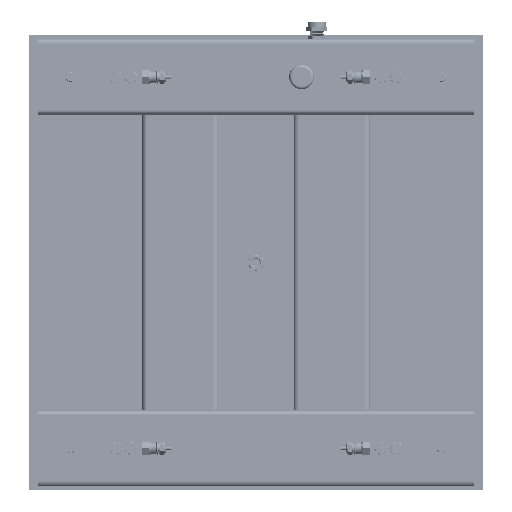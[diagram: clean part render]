
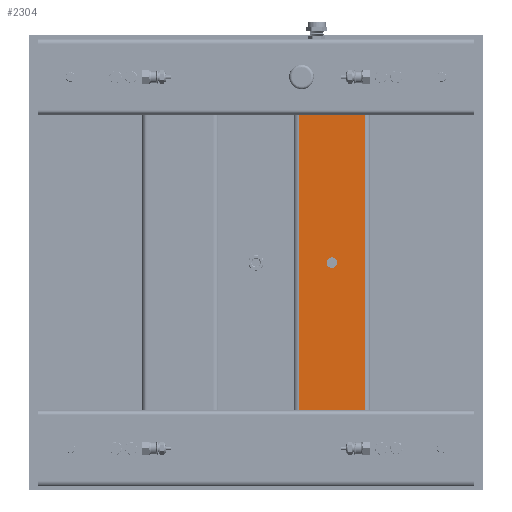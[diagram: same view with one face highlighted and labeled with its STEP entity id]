
A CAD part, front view. The second image highlights one B-rep face of the part: STEP entity #2304.
In plain terms, the highlighted planar face has unit normal (0, -1, 0).
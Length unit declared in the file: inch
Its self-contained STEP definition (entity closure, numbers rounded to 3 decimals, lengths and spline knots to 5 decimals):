
#657 = ORIENTED_EDGE ( 'NONE', *, *, #614093, .F. ) ;
#2304 = ADVANCED_FACE ( 'NONE', ( #529471, #455392 ), #394650, .F. ) ;
#11450 = ORIENTED_EDGE ( 'NONE', *, *, #367463, .T. ) ;
#13956 = VERTEX_POINT ( 'NONE', #324144 ) ;
#15066 = EDGE_CURVE ( 'NONE', #91910, #61235, #217308, .T. ) ;
#38196 = VECTOR ( 'NONE', #464295, 39.37008 ) ;
#46545 = CARTESIAN_POINT ( 'NONE',  ( 19.5, 0., -2.19554 ) ) ;
#49863 = VERTEX_POINT ( 'NONE', #46545 ) ;
#56162 = CARTESIAN_POINT ( 'NONE',  ( 19.5, 0., -2.19554 ) ) ;
#61235 = VERTEX_POINT ( 'NONE', #505072 ) ;
#90457 = DIRECTION ( 'NONE',  ( 0., -1., 0. ) ) ;
#91910 = VERTEX_POINT ( 'NONE', #279555 ) ;
#164836 = CARTESIAN_POINT ( 'NONE',  ( 0., 0., -2.50804 ) ) ;
#172573 = ORIENTED_EDGE ( 'NONE', *, *, #594993, .F. ) ;
#174269 = EDGE_LOOP ( 'NONE', ( #657, #182381, #187481, #11450 ) ) ;
#182381 = ORIENTED_EDGE ( 'NONE', *, *, #540309, .T. ) ;
#187481 = ORIENTED_EDGE ( 'NONE', *, *, #207538, .F. ) ;
#195763 = AXIS2_PLACEMENT_3D ( 'NONE', #627002, #90457, #738312 ) ;
#207538 = EDGE_CURVE ( 'NONE', #702949, #664129, #600870, .T. ) ;
#217308 = CIRCLE ( 'NONE', #724619, 0.34375 ) ;
#270903 = DIRECTION ( 'NONE',  ( 0., 0., -1. ) ) ;
#279555 = CARTESIAN_POINT ( 'NONE',  ( 9.75, 0., -0.34375 ) ) ;
#324144 = CARTESIAN_POINT ( 'NONE',  ( 19.5, 0., 2.19554 ) ) ;
#331783 = EDGE_LOOP ( 'NONE', ( #567620, #172573 ) ) ;
#359744 = LINE ( 'NONE', #638658, #682554 ) ;
#367463 = EDGE_CURVE ( 'NONE', #702949, #49863, #462498, .T. ) ;
#386142 = DIRECTION ( 'NONE',  ( 0., 1., 0. ) ) ;
#394650 = PLANE ( 'NONE',  #514579 ) ;
#420303 = CARTESIAN_POINT ( 'NONE',  ( 19.5, 0., 2.50804 ) ) ;
#422833 = DIRECTION ( 'NONE',  ( 0., 0., -1. ) ) ;
#455392 = FACE_OUTER_BOUND ( 'NONE', #174269, .T. ) ;
#462498 = LINE ( 'NONE', #56162, #749051 ) ;
#464295 = DIRECTION ( 'NONE',  ( 0., 0., 1. ) ) ;
#496972 = CARTESIAN_POINT ( 'NONE',  ( 0., 0., 2.19554 ) ) ;
#505072 = CARTESIAN_POINT ( 'NONE',  ( 9.75, 0., 0.34375 ) ) ;
#514579 = AXIS2_PLACEMENT_3D ( 'NONE', #703989, #386142, #571706 ) ;
#529471 = FACE_BOUND ( 'NONE', #331783, .T. ) ;
#530947 = DIRECTION ( 'NONE',  ( 1., 0., 0. ) ) ;
#533620 = VECTOR ( 'NONE', #422833, 39.37008 ) ;
#540309 = EDGE_CURVE ( 'NONE', #13956, #664129, #359744, .T. ) ;
#567620 = ORIENTED_EDGE ( 'NONE', *, *, #15066, .F. ) ;
#571706 = DIRECTION ( 'NONE',  ( 0., 0., 1. ) ) ;
#572655 = DIRECTION ( 'NONE',  ( 0., -1., 0. ) ) ;
#594993 = EDGE_CURVE ( 'NONE', #61235, #91910, #659140, .T. ) ;
#600870 = LINE ( 'NONE', #164836, #38196 ) ;
#614093 = EDGE_CURVE ( 'NONE', #13956, #49863, #709043, .T. ) ;
#627002 = CARTESIAN_POINT ( 'NONE',  ( 9.75, 0., 0. ) ) ;
#636904 = CARTESIAN_POINT ( 'NONE',  ( 0., 0., -2.19554 ) ) ;
#638658 = CARTESIAN_POINT ( 'NONE',  ( 0., 0., 2.19554 ) ) ;
#659140 = CIRCLE ( 'NONE', #195763, 0.34375 ) ;
#664129 = VERTEX_POINT ( 'NONE', #496972 ) ;
#678614 = CARTESIAN_POINT ( 'NONE',  ( 9.75, 0., 0. ) ) ;
#682554 = VECTOR ( 'NONE', #754929, 39.37008 ) ;
#702949 = VERTEX_POINT ( 'NONE', #636904 ) ;
#703989 = CARTESIAN_POINT ( 'NONE',  ( 0., 0., 0. ) ) ;
#709043 = LINE ( 'NONE', #420303, #533620 ) ;
#724619 = AXIS2_PLACEMENT_3D ( 'NONE', #678614, #572655, #270903 ) ;
#738312 = DIRECTION ( 'NONE',  ( 0., 0., -1. ) ) ;
#749051 = VECTOR ( 'NONE', #530947, 39.37008 ) ;
#754929 = DIRECTION ( 'NONE',  ( -1., 0., 0. ) ) ;
